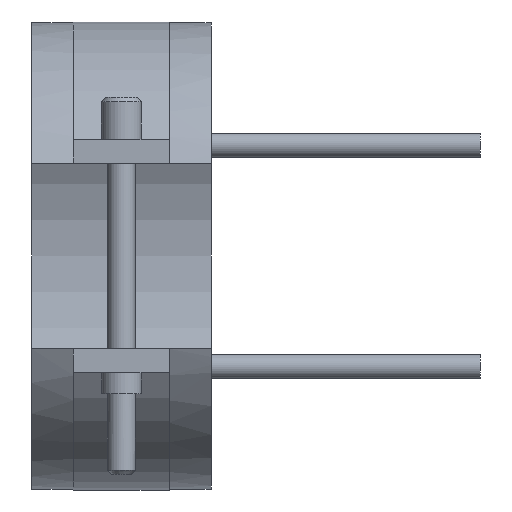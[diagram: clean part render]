
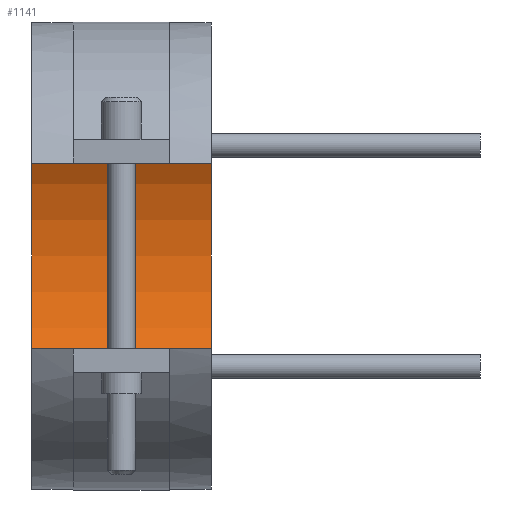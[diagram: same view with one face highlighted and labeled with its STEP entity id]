
A CAD part, front view. The second image highlights one B-rep face of the part: STEP entity #1141.
In plain terms, the highlighted cylindrical face has radius 35 mm (diameter 70 mm), a partial arc.
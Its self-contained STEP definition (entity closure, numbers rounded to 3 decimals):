
#822=CARTESIAN_POINT('Vertex',(-15.,0.,-35.)) ;
#829=CARTESIAN_POINT('Vertex',(15.,0.,-35.)) ;
#832=CARTESIAN_POINT('Line Origine',(15.,0.,-35.)) ;
#850=CARTESIAN_POINT('Axis2P3D Location',(-15.,0.,0.)) ;
#854=CARTESIAN_POINT('Vertex',(-15.,0.,35.)) ;
#911=CARTESIAN_POINT('Vertex',(15.,0.,35.)) ;
#921=CARTESIAN_POINT('Line Origine',(15.,0.,35.)) ;
#1012=CARTESIAN_POINT('Axis2P3D Location',(15.,0.,0.)) ;
#1130=CARTESIAN_POINT('Axis2P3D Location',(15.,0.,0.)) ;
#833=DIRECTION('Vector Direction',(1.,0.,0.)) ;
#851=DIRECTION('Axis2P3D Direction',(1.,0.,0.)) ;
#922=DIRECTION('Vector Direction',(1.,0.,0.)) ;
#1013=DIRECTION('Axis2P3D Direction',(1.,0.,0.)) ;
#1131=DIRECTION('Axis2P3D Direction',(1.,0.,-0.)) ;
#1132=DIRECTION('Axis2P3D XDirection',(0.,0.,-1.)) ;
#852=AXIS2_PLACEMENT_3D('Circle Axis2P3D',#850,#851,$) ;
#1014=AXIS2_PLACEMENT_3D('Circle Axis2P3D',#1012,#1013,$) ;
#1133=AXIS2_PLACEMENT_3D('Cylinder Axis2P3D',#1130,#1131,#1132) ;
#1136=ORIENTED_EDGE('',*,*,#1016,.T.) ;
#1137=ORIENTED_EDGE('',*,*,#925,.T.) ;
#1138=ORIENTED_EDGE('',*,*,#856,.F.) ;
#1139=ORIENTED_EDGE('',*,*,#836,.T.) ;
#834=VECTOR('Line Direction',#833,1.) ;
#923=VECTOR('Line Direction',#922,1.) ;
#1141=ADVANCED_FACE('14070030',(#1140),#1134,.F.) ;
#853=CIRCLE('generated circle',#852,35.) ;
#1015=CIRCLE('generated circle',#1014,35.) ;
#1134=CYLINDRICAL_SURFACE('generated cylinder',#1133,35.) ;
#836=EDGE_CURVE('',#823,#830,#835,.T.) ;
#856=EDGE_CURVE('',#823,#855,#853,.T.) ;
#925=EDGE_CURVE('',#912,#855,#924,.F.) ;
#1016=EDGE_CURVE('',#830,#912,#1015,.T.) ;
#1135=EDGE_LOOP('',(#1136,#1137,#1138,#1139)) ;
#1140=FACE_OUTER_BOUND('',#1135,.T.) ;
#835=LINE('Line',#832,#834) ;
#924=LINE('Line',#921,#923) ;
#823=VERTEX_POINT('',#822) ;
#830=VERTEX_POINT('',#829) ;
#855=VERTEX_POINT('',#854) ;
#912=VERTEX_POINT('',#911) ;
